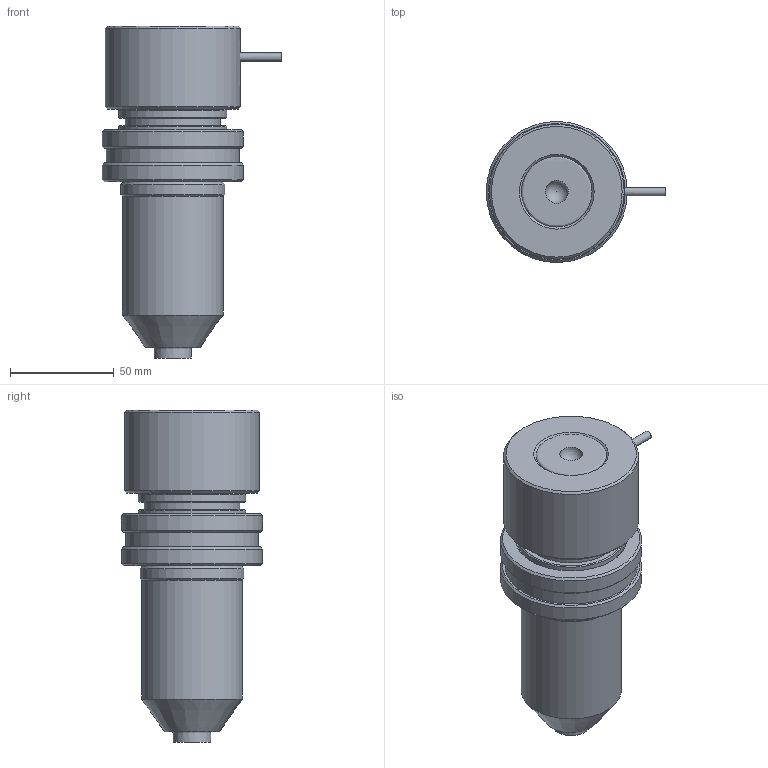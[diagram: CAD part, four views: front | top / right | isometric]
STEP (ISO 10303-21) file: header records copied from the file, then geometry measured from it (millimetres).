
FILE_DESCRIPTION(('STEP AP214'),'1');
FILE_NAME('IPM3000-C.stp','2018-06-13T08:25:25',(' '),(' '),'Spatial InterOp 3D',' ',' ');
FILE_SCHEMA(('AUTOMOTIVE_DESIGN { 1 0 10303 214 1 1 1 1 }'));
Length unit declared in the file: millimetre
Products named in the file (1): 1
Bounding box: 86.5 x 68 x 160 mm (x, y, z)
Volume: 321184.4 mm3; surface area: 77606 mm2
Topology: 4 solids, 4 shells, 82 faces, 152 edges, 90 vertices
Faces by surface type: cylinder 25, cone 24, plane 22, revolution 8, torus 2, sphere 1
Full cylindrical faces by diameter (mm): 2.5 x1, 4 x1, 6.55 x1, 7 x1, 9.6 x1, 10 x1, 10.01 x1, 16 x2, 34 x1, 37 x2, 46 x2, 48.5 x1, 50 x1, 51 x1, 52 x4, 64 x1, 65 x1, 68 x2
Entity records: 2590 total; most frequent: CARTESIAN_POINT 521, DIRECTION 320, EDGE_LOOP 162, ORIENTED_EDGE 162, AXIS2_PLACEMENT_3D 156, FACE_OUTER_BOUND 116, STYLED_ITEM 82, PRESENTATION_STYLE_ASSIGNMENT 82
